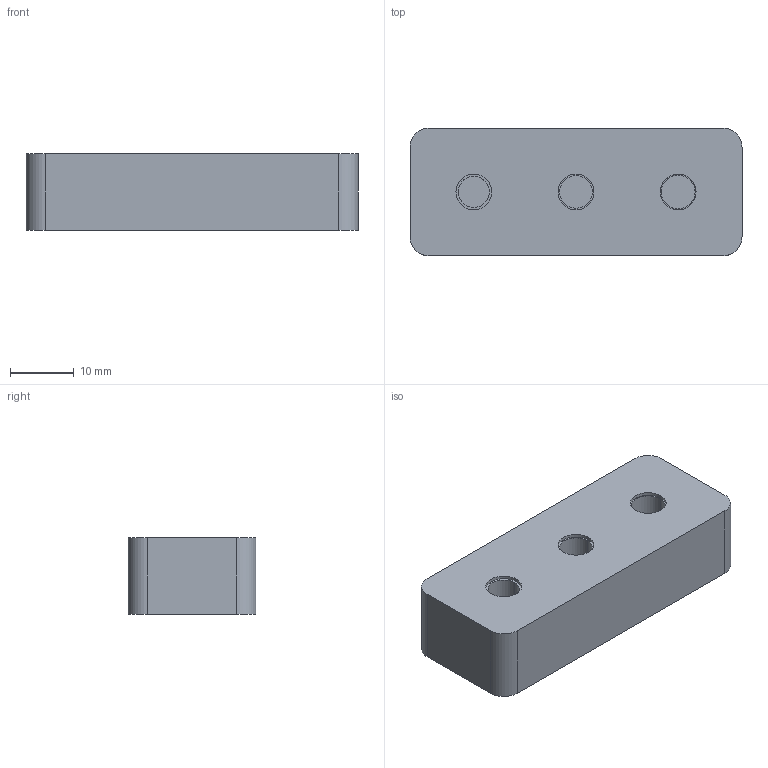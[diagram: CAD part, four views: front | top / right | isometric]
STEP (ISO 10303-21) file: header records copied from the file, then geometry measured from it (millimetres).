
FILE_DESCRIPTION(('CATIA V5 STEP Exchange','CAx-IF Rec.Pracs.--- Model Styling and Organization---1.5--- 2016-08-15','CAx-IF Rec.Pracs.---Supplemental Geometry---1.0---2011-11-01','CAx-IF Rec.Pracs.--- Composite Materials ---3.4---2017-06-13','CAx-IF Rec.Pracs.---Tessellated 3D Geometry---1.0---2015-12-17'),'2;1');
FILE_NAME('C:\Users\icemi\Desktop\RZS_Repository\RES\catia_macros\generated\RES_Enclosure_20260730_133316\RES_M4_InsertCoupon.stp','2026-07-30T05:36:06+00:00',('none'),('none'),'CATIA Version 5-6 Release 2022 SP6','CATIA V5 STEP AP242 v3','none');
FILE_SCHEMA(('AP242_MANAGED_MODEL_BASED_3D_ENGINEERING_MIM_LF {1 0 10303 442 1 1 4}'));
Length unit declared in the file: millimetre
Products named in the file (1): Part70
Bounding box: 52 x 20 x 12 mm (x, y, z)
Volume: 11859.6 mm3; surface area: 4141.7 mm2
Topology: 1 solids, 1 shells, 28 faces, 60 edges, 40 vertices
Faces by surface type: cylinder 16, plane 12
Entity records: 715 total; most frequent: ORIENTED_EDGE 120, CARTESIAN_POINT 119, DIRECTION 96, EDGE_CURVE 60, AXIS2_PLACEMENT_3D 51, VERTEX_POINT 40, EDGE_LOOP 34, CIRCLE 32
